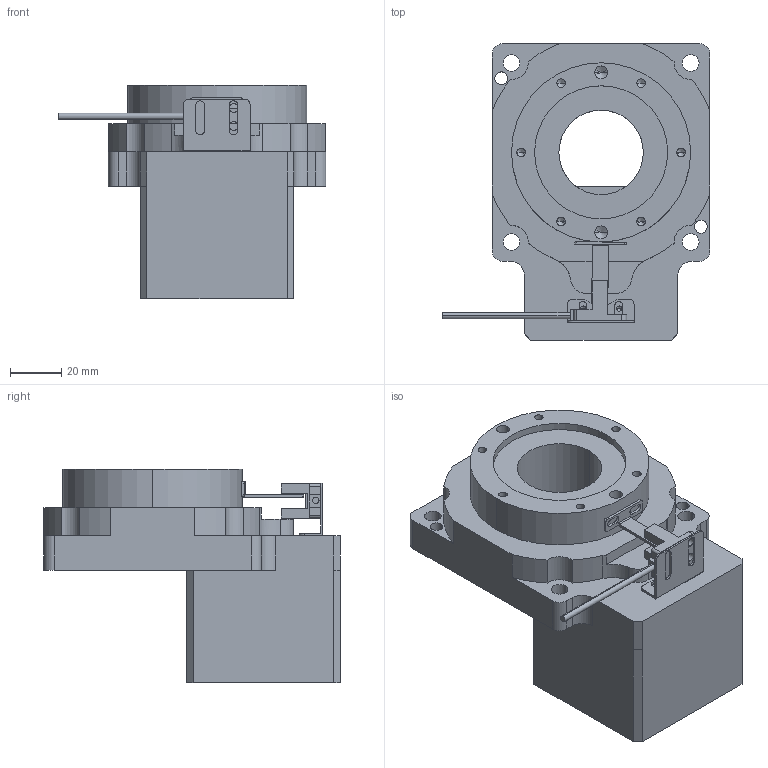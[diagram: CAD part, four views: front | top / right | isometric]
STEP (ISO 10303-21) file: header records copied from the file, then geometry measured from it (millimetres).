
FILE_DESCRIPTION (( 'STEP AP203' ), '1' );
FILE_NAME ('RTN85-10K-8-38.10-47.14-M4(57²½½ø¼Ó¸ß39.5).STEP', '2024-05-21T09:59:47', ( '' ), ( '' ), 'SwSTEP 2.0', 'SolidWorks 2023', '' );
FILE_SCHEMA (( 'CONFIG_CONTROL_DESIGN' ));
Length unit declared in the file: millimetre
Products named in the file (1): RTN85-10K-8-38.10-47.14-M4(57步进加高39.5)
Bounding box: 104.61 x 115.8 x 83.5 mm (x, y, z)
Volume: 359032.7 mm3; surface area: 51000.1 mm2
Topology: 4 solids, 6 shells, 265 faces, 707 edges, 444 vertices
Faces by surface type: cylinder 118, plane 115, cone 32
Entity records: 8174 total; most frequent: DIRECTION 1445, CARTESIAN_POINT 1391, ORIENTED_EDGE 1350, EDGE_CURVE 675, AXIS2_PLACEMENT_3D 506, VERTEX_POINT 444, VECTOR 433, LINE 433
